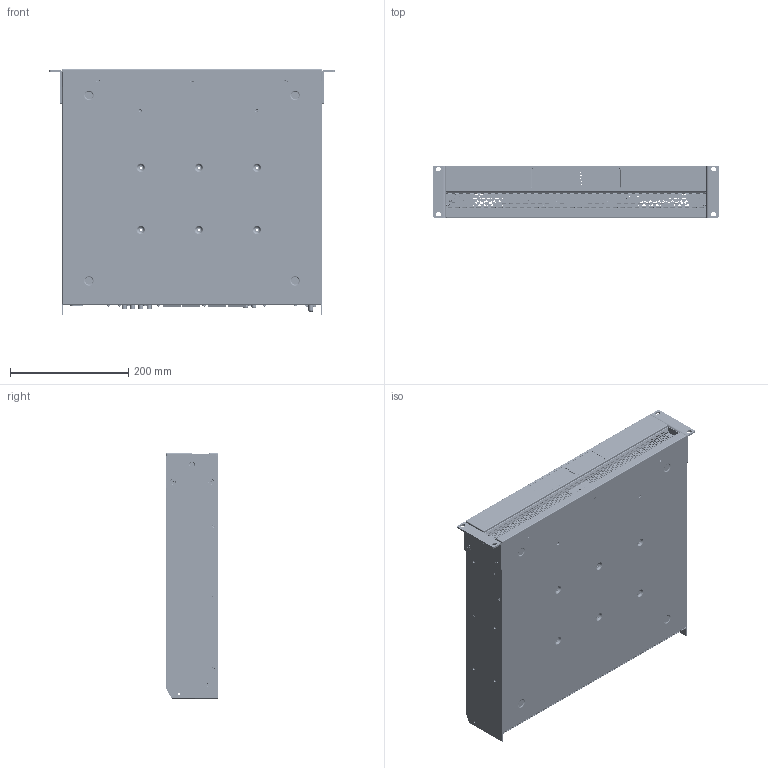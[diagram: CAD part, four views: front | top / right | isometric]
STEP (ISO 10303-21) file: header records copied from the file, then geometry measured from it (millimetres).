
FILE_DESCRIPTION (( 'STEP AP214' ), '1' );
FILE_NAME ('Sonance PowerZone Connect PRO 4000.4.STEP', '2026-06-04T18:24:22', ( '' ), ( '' ), 'SwSTEP 2.0', 'SolidWorks 2025', '' );
FILE_SCHEMA (( 'AUTOMOTIVE_DESIGN' ));
Length unit declared in the file: millimetre
Products named in the file (1): Sonance PowerZone Connect PRO 4000.4
Bounding box: 482.4 x 88.05 x 414.05 mm (x, y, z)
Volume: 769387.5 mm3; surface area: 1291189.4 mm2
Topology: 305 solids, 305 shells, 21543 faces, 58157 edges, 37459 vertices
Faces by surface type: plane 14721, cylinder 4626, cone 1416, torus 361, bspline 256, sphere 163
Entity records: 689082 total; most frequent: CARTESIAN_POINT 135378, ORIENTED_EDGE 115946, DIRECTION 110416, EDGE_CURVE 57973, VECTOR 44250, LINE 44250, VERTEX_POINT 37452, AXIS2_PLACEMENT_3D 33083
